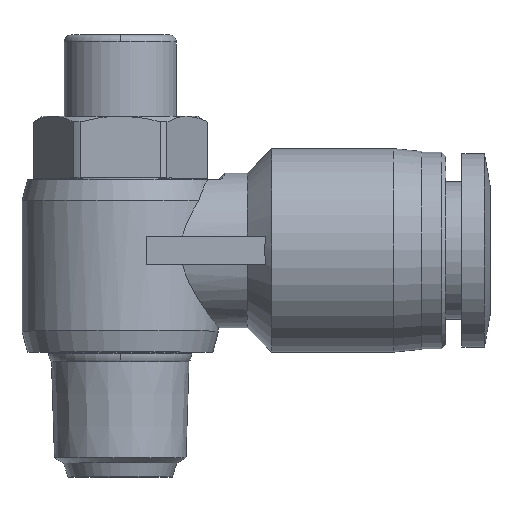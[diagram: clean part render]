
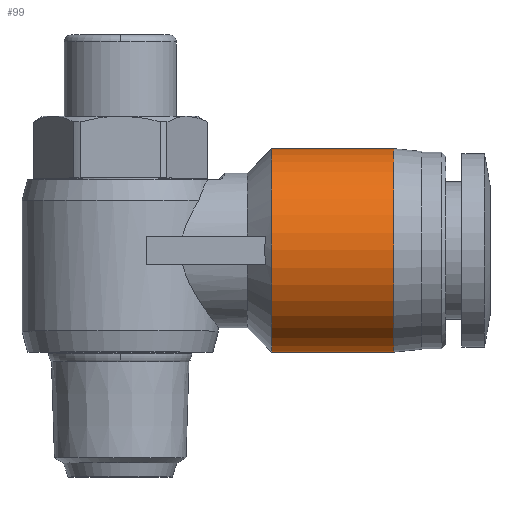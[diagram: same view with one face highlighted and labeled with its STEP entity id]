
A CAD part, top view. The second image highlights one B-rep face of the part: STEP entity #99.
In plain terms, the highlighted cylindrical face has radius 7.25 mm (diameter 14.5 mm), a partial arc.
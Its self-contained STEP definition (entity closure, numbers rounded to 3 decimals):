
#40 = EDGE_CURVE ( 'NONE', #1209, #1292, #361, .T. ) ;
#99 = ADVANCED_FACE ( 'NONE', ( #1842 ), #1516, .T. ) ;
#361 = CIRCLE ( 'NONE', #2725, 7.25 ) ;
#632 = DIRECTION ( 'NONE',  ( -1., 0., 0. ) ) ;
#878 = VERTEX_POINT ( 'NONE', #3158 ) ;
#993 = LINE ( 'NONE', #3282, #1071 ) ;
#1071 = VECTOR ( 'NONE', #2931, 1000. ) ;
#1209 = VERTEX_POINT ( 'NONE', #2990 ) ;
#1237 = DIRECTION ( 'NONE',  ( -1., 0., 0. ) ) ;
#1262 = VERTEX_POINT ( 'NONE', #1342 ) ;
#1292 = VERTEX_POINT ( 'NONE', #4091 ) ;
#1342 = CARTESIAN_POINT ( 'NONE',  ( 10.8, 8.2, 0. ) ) ;
#1376 = AXIS2_PLACEMENT_3D ( 'NONE', #3314, #632, #2986 ) ;
#1516 = CYLINDRICAL_SURFACE ( 'NONE', #1959, 7.25 ) ;
#1535 = ORIENTED_EDGE ( 'NONE', *, *, #2161, .F. ) ;
#1578 = ORIENTED_EDGE ( 'NONE', *, *, #2113, .F. ) ;
#1795 = EDGE_CURVE ( 'NONE', #1292, #878, #993, .T. ) ;
#1842 = FACE_OUTER_BOUND ( 'NONE', #3117, .T. ) ;
#1959 = AXIS2_PLACEMENT_3D ( 'NONE', #3559, #1237, #3492 ) ;
#2000 = DIRECTION ( 'NONE',  ( -1., 0., 0. ) ) ;
#2057 = VECTOR ( 'NONE', #2000, 1000. ) ;
#2113 = EDGE_CURVE ( 'NONE', #1262, #878, #2346, .T. ) ;
#2161 = EDGE_CURVE ( 'NONE', #1209, #1262, #2310, .T. ) ;
#2257 = ORIENTED_EDGE ( 'NONE', *, *, #1795, .T. ) ;
#2310 = LINE ( 'NONE', #2967, #2057 ) ;
#2346 = CIRCLE ( 'NONE', #1376, 7.25 ) ;
#2356 = CARTESIAN_POINT ( 'NONE',  ( 19.5, 15.45, 0. ) ) ;
#2725 = AXIS2_PLACEMENT_3D ( 'NONE', #2356, #3675, #3088 ) ;
#2931 = DIRECTION ( 'NONE',  ( -1., 0., 0. ) ) ;
#2967 = CARTESIAN_POINT ( 'NONE',  ( 15.15, 8.2, 0. ) ) ;
#2986 = DIRECTION ( 'NONE',  ( 0., -1., 0. ) ) ;
#2990 = CARTESIAN_POINT ( 'NONE',  ( 19.5, 8.2, 0. ) ) ;
#3088 = DIRECTION ( 'NONE',  ( 0., -1., 0. ) ) ;
#3117 = EDGE_LOOP ( 'NONE', ( #3328, #2257, #1578, #1535 ) ) ;
#3158 = CARTESIAN_POINT ( 'NONE',  ( 10.8, 22.7, 0. ) ) ;
#3282 = CARTESIAN_POINT ( 'NONE',  ( 15.15, 22.7, 0. ) ) ;
#3314 = CARTESIAN_POINT ( 'NONE',  ( 10.8, 15.45, 0. ) ) ;
#3328 = ORIENTED_EDGE ( 'NONE', *, *, #40, .T. ) ;
#3492 = DIRECTION ( 'NONE',  ( 0., -1., 0. ) ) ;
#3559 = CARTESIAN_POINT ( 'NONE',  ( 15.15, 15.45, 0. ) ) ;
#3675 = DIRECTION ( 'NONE',  ( -1., 0., 0. ) ) ;
#4091 = CARTESIAN_POINT ( 'NONE',  ( 19.5, 22.7, 0. ) ) ;
